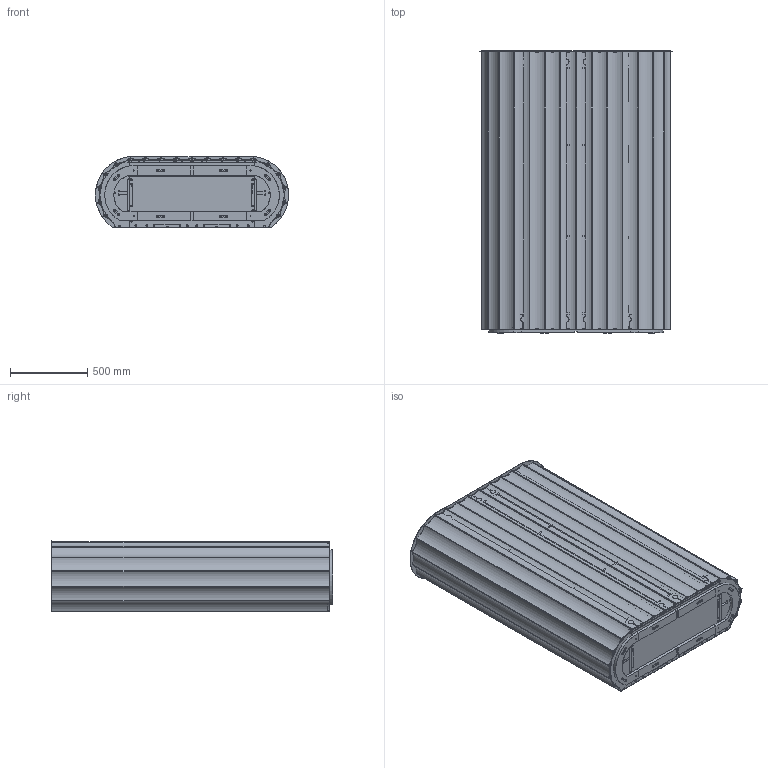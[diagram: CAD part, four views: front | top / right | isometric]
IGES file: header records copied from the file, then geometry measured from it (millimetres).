
Start section: SolidWorks IGES file using analytic representation for surfaces
Global section: file name: \\192.168.0.53\Reserch Development\SITO WEB\2024\File 2D 3D\Prodotti\3D\De Castelli-3D-Dorica Cabinet.IGS; native system: SolidWorks 2025; preprocessor: SolidWorks 2025; author: lauraa; date: 260407.090838; units: millimetre
Bounding box: 1251.04 x 1826.7 x 459.3 mm (x, y, z)
Surface area: 19231114 mm2 (no closed solid volume)
Topology: 0 solids, 0 shells, 568 faces, 15779 edges, 15779 vertices
Faces by surface type: bspline 375, revolution 193
